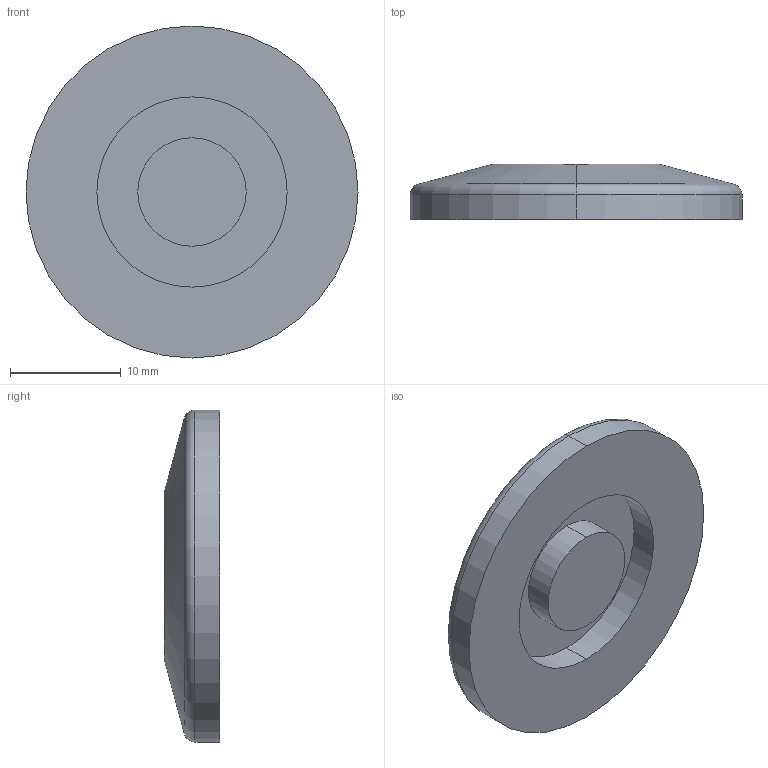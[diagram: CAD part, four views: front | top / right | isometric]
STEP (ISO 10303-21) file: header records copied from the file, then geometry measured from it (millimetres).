
FILE_DESCRIPTION (( 'STEP AP214' ), '1' );
FILE_NAME ('W3BF16.STEP', '2019-03-25T08:26:06', ( '' ), ( '' ), 'SwSTEP 2.0', 'SolidWorks 2018', '' );
FILE_SCHEMA (( 'AUTOMOTIVE_DESIGN' ));
Length unit declared in the file: millimetre
Products named in the file (1): W3BF16
Bounding box: 30 x 5 x 30 mm (x, y, z)
Volume: 2544.7 mm3; surface area: 1905.5 mm2
Topology: 1 solids, 1 shells, 14 faces, 26 edges, 16 vertices
Faces by surface type: cylinder 6, plane 4, torus 2, cone 2
Entity records: 390 total; most frequent: DIRECTION 74, CARTESIAN_POINT 57, ORIENTED_EDGE 52, AXIS2_PLACEMENT_3D 33, EDGE_CURVE 26, CIRCLE 18, EDGE_LOOP 16, VERTEX_POINT 16
